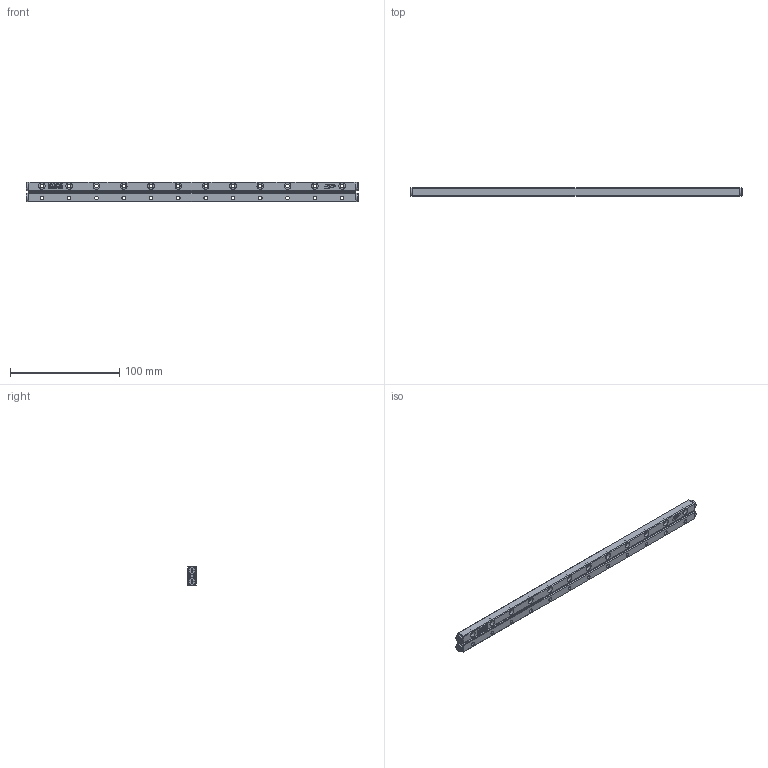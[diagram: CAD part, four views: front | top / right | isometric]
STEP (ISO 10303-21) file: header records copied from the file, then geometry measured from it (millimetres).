
FILE_DESCRIPTION (( 'STEP AP203' ), '1' );
FILE_NAME ('GRV03-300.STEP', '2023-10-20T08:21:54', ( '' ), ( '' ), 'SwSTEP 2.0', 'SolidWorks 2019', '' );
FILE_SCHEMA (( 'CONFIG_CONTROL_DESIGN' ));
Length unit declared in the file: millimetre
Products named in the file (3): GRVP03-300-模糊化保持器組; GRV03-300; GRV03-300-模糊化軌道
Assembly tree (3 placements, depth 2):
  GRV03-300
    GRV03-300-模糊化軌道  x2
    GRVP03-300-模糊化保持器組
Bounding box: 304 x 8 x 18 mm (x, y, z)
Volume: 36460.6 mm3; surface area: 26752.2 mm2
Topology: 3 solids, 3 shells, 1402 faces, 3454 edges, 2252 vertices
Faces by surface type: plane 862, cylinder 270, bspline 154, torus 80, cone 36
Full cylindrical faces by diameter (mm): 3.3 x24, 6 x24, 7.5 x4
Entity records: 34801 total; most frequent: CARTESIAN_POINT 11677, ORIENTED_EDGE 4896, DIRECTION 4206, EDGE_CURVE 2448, VERTEX_POINT 1622, LINE 1488, VECTOR 1488, AXIS2_PLACEMENT_3D 1359
